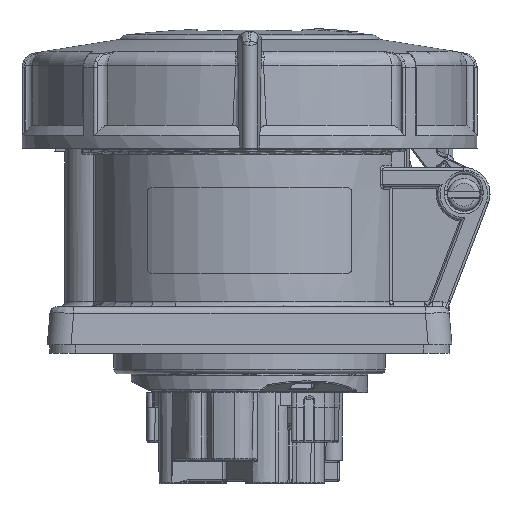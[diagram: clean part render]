
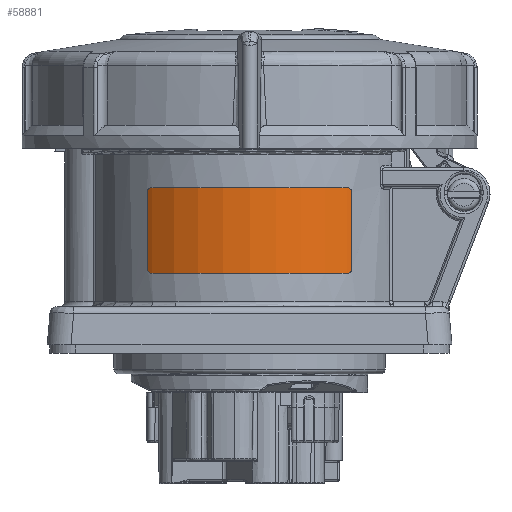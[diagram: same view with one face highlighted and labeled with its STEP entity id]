
A CAD part, left-side view. The second image highlights one B-rep face of the part: STEP entity #58881.
In plain terms, the highlighted cylindrical face has radius 32.65 mm (diameter 65.3 mm), a partial arc.
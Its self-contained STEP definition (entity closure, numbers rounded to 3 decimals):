
#12145=CARTESIAN_POINT('',(0.,0.,33.));
#12146=DIRECTION('',(0.,0.,1.));
#12147=DIRECTION('',(-0.778,0.628,0.));
#12148=AXIS2_PLACEMENT_3D('',#12145,#12146,#12147);
#12154=CARTESIAN_POINT('',(-25.412,20.5,33.));
#12155=CARTESIAN_POINT('',(-25.383,20.536,33.));
#12156=CARTESIAN_POINT('',(-25.325,20.607,
32.996));
#12157=CARTESIAN_POINT('',(-25.238,20.714,
32.979));
#12158=CARTESIAN_POINT('',(-25.154,20.816,
32.951));
#12159=CARTESIAN_POINT('',(-25.073,20.914,
32.912));
#12160=CARTESIAN_POINT('',(-24.996,21.006,
32.865));
#12161=CARTESIAN_POINT('',(-24.925,21.09,
32.81));
#12162=CARTESIAN_POINT('',(-24.86,21.166,
32.748));
#12163=CARTESIAN_POINT('',(-24.802,21.234,32.682));
#12164=CARTESIAN_POINT('',(-24.751,21.293,
32.611));
#12165=CARTESIAN_POINT('',(-24.707,21.344,
32.538));
#12166=CARTESIAN_POINT('',(-24.67,21.387,
32.463));
#12167=CARTESIAN_POINT('',(-24.639,21.423,
32.387));
#12168=CARTESIAN_POINT('',(-24.614,21.452,
32.31));
#12169=CARTESIAN_POINT('',(-24.595,21.474,
32.233));
#12170=CARTESIAN_POINT('',(-24.582,21.489,
32.155));
#12171=CARTESIAN_POINT('',(-24.574,21.498,
32.078));
#12172=CARTESIAN_POINT('',(-24.572,21.5,32.026));
#12173=CARTESIAN_POINT('',(-24.572,21.5,32.));
#12200=DIRECTION('',(0.,0.,-1.));
#12201=VECTOR('',#12200,16.);
#12202=CARTESIAN_POINT('',(-24.572,-21.5,32.));
#12203=LINE('2282',#12202,#12201);
#12233=CARTESIAN_POINT('',(-24.572,21.5,16.));
#12234=CARTESIAN_POINT('',(-24.572,21.5,15.974));
#12235=CARTESIAN_POINT('',(-24.574,21.498,
15.922));
#12236=CARTESIAN_POINT('',(-24.582,21.489,
15.845));
#12237=CARTESIAN_POINT('',(-24.595,21.474,
15.767));
#12238=CARTESIAN_POINT('',(-24.614,21.452,
15.69));
#12239=CARTESIAN_POINT('',(-24.639,21.423,
15.613));
#12240=CARTESIAN_POINT('',(-24.67,21.387,
15.537));
#12241=CARTESIAN_POINT('',(-24.707,21.344,
15.462));
#12242=CARTESIAN_POINT('',(-24.751,21.293,
15.389));
#12243=CARTESIAN_POINT('',(-24.802,21.234,15.318));
#12244=CARTESIAN_POINT('',(-24.86,21.166,
15.252));
#12245=CARTESIAN_POINT('',(-24.925,21.09,
15.19));
#12246=CARTESIAN_POINT('',(-24.996,21.006,
15.135));
#12247=CARTESIAN_POINT('',(-25.073,20.914,
15.088));
#12248=CARTESIAN_POINT('',(-25.154,20.816,
15.049));
#12249=CARTESIAN_POINT('',(-25.238,20.714,
15.021));
#12250=CARTESIAN_POINT('',(-25.325,20.607,
15.004));
#12251=CARTESIAN_POINT('',(-25.383,20.536,15.));
#12252=CARTESIAN_POINT('',(-25.412,20.5,15.));
#12254=CARTESIAN_POINT('',(0.,0.,15.));
#12255=DIRECTION('',(0.,0.,1.));
#12256=DIRECTION('',(-0.778,0.628,0.));
#12257=AXIS2_PLACEMENT_3D('',#12254,#12255,#12256);
#12268=CARTESIAN_POINT('',(-25.412,-20.5,15.));
#12269=CARTESIAN_POINT('',(-25.383,-20.536,15.));
#12270=CARTESIAN_POINT('',(-25.325,-20.607,
15.004));
#12271=CARTESIAN_POINT('',(-25.238,-20.714,
15.021));
#12272=CARTESIAN_POINT('',(-25.154,-20.816,
15.049));
#12273=CARTESIAN_POINT('',(-25.073,-20.914,
15.088));
#12274=CARTESIAN_POINT('',(-24.996,-21.006,
15.135));
#12275=CARTESIAN_POINT('',(-24.925,-21.09,
15.19));
#12276=CARTESIAN_POINT('',(-24.86,-21.166,
15.252));
#12277=CARTESIAN_POINT('',(-24.802,-21.234,15.318));
#12278=CARTESIAN_POINT('',(-24.751,-21.293,
15.389));
#12279=CARTESIAN_POINT('',(-24.707,-21.344,
15.462));
#12280=CARTESIAN_POINT('',(-24.67,-21.387,
15.537));
#12281=CARTESIAN_POINT('',(-24.639,-21.423,
15.613));
#12282=CARTESIAN_POINT('',(-24.614,-21.452,
15.69));
#12283=CARTESIAN_POINT('',(-24.595,-21.474,
15.767));
#12284=CARTESIAN_POINT('',(-24.582,-21.489,
15.845));
#12285=CARTESIAN_POINT('',(-24.574,-21.498,
15.922));
#12286=CARTESIAN_POINT('',(-24.572,-21.5,15.974));
#12287=CARTESIAN_POINT('',(-24.572,-21.5,16.));
#12347=CARTESIAN_POINT('',(-24.572,-21.5,32.));
#12348=CARTESIAN_POINT('',(-24.572,-21.5,32.026));
#12349=CARTESIAN_POINT('',(-24.574,-21.498,
32.078));
#12350=CARTESIAN_POINT('',(-24.582,-21.489,
32.155));
#12351=CARTESIAN_POINT('',(-24.595,-21.474,
32.233));
#12352=CARTESIAN_POINT('',(-24.614,-21.452,
32.31));
#12353=CARTESIAN_POINT('',(-24.639,-21.423,
32.387));
#12354=CARTESIAN_POINT('',(-24.67,-21.387,
32.463));
#12355=CARTESIAN_POINT('',(-24.707,-21.344,
32.538));
#12356=CARTESIAN_POINT('',(-24.751,-21.293,
32.611));
#12357=CARTESIAN_POINT('',(-24.802,-21.234,32.682));
#12358=CARTESIAN_POINT('',(-24.86,-21.166,
32.748));
#12359=CARTESIAN_POINT('',(-24.925,-21.09,
32.81));
#12360=CARTESIAN_POINT('',(-24.996,-21.006,
32.865));
#12361=CARTESIAN_POINT('',(-25.073,-20.914,
32.912));
#12362=CARTESIAN_POINT('',(-25.154,-20.816,
32.951));
#12363=CARTESIAN_POINT('',(-25.238,-20.714,
32.979));
#12364=CARTESIAN_POINT('',(-25.325,-20.607,
32.996));
#12365=CARTESIAN_POINT('',(-25.383,-20.536,33.));
#12366=CARTESIAN_POINT('',(-25.412,-20.5,33.));
#12372=DIRECTION('',(0.,0.,-1.));
#12373=VECTOR('',#12372,16.);
#12374=CARTESIAN_POINT('',(-24.572,21.5,32.));
#12375=LINE('2283',#12374,#12373);
#35159=CARTESIAN_POINT('',(-25.412,20.5,15.));
#35161=VERTEX_POINT('',#35159);
#35163=CARTESIAN_POINT('',(-24.572,21.5,16.));
#35165=VERTEX_POINT('',#35163);
#35166=CARTESIAN_POINT('',(-25.412,20.5,33.));
#35168=VERTEX_POINT('',#35166);
#35170=VERTEX_POINT('',#12173);
#35174=CARTESIAN_POINT('',(-25.412,-20.5,33.));
#35176=VERTEX_POINT('',#35174);
#35178=CARTESIAN_POINT('',(-24.572,-21.5,32.));
#35180=VERTEX_POINT('',#35178);
#35181=CARTESIAN_POINT('',(-25.412,-20.5,15.));
#35183=VERTEX_POINT('',#35181);
#35185=VERTEX_POINT('',#12287);
#58860=CARTESIAN_POINT('',(0.,0.,15.));
#58861=DIRECTION('',(0.,0.,1.));
#58862=DIRECTION('',(1.,0.,0.));
#58863=AXIS2_PLACEMENT_3D('',#58860,#58861,#58862);
#58864=CYLINDRICAL_SURFACE('106',#58863,32.65);
#58866=ORIENTED_EDGE('2270',*,*,#58865,.F.);
#58868=ORIENTED_EDGE('2283',*,*,#58867,.F.);
#58869=ORIENTED_EDGE('2272',*,*,#58845,.F.);
#58870=ORIENTED_EDGE('2281',*,*,#58827,.T.);
#58872=ORIENTED_EDGE('2276',*,*,#58871,.F.);
#58874=ORIENTED_EDGE('2282',*,*,#58873,.T.);
#58876=ORIENTED_EDGE('2278',*,*,#58875,.F.);
#58878=ORIENTED_EDGE('2280',*,*,#58877,.F.);
#58879=EDGE_LOOP('106',(#58866,#58868,#58869,#58870,#58872,#58874,#58876,
#58878));
#58880=FACE_OUTER_BOUND('106',#58879,.F.);
#12149=CIRCLE('2281',#12148,32.65);
#12174=B_SPLINE_CURVE_WITH_KNOTS('2272',3,(#12154,#12155,#12156,#12157,#12158,
#12159,#12160,#12161,#12162,#12163,#12164,#12165,#12166,#12167,#12168,#12169,
#12170,#12171,#12172,#12173),.UNSPECIFIED.,.F.,.F.,(4,1,1,1,1,1,1,1,1,1,1,1,1,1,
1,1,1,4),(0.,0.059,0.118,0.176,
0.235,0.294,0.353,0.412,
0.471,0.529,0.588,0.647,
0.706,0.765,0.824,0.882,
0.941,1.),.UNSPECIFIED.);
#12253=B_SPLINE_CURVE_WITH_KNOTS('2270',3,(#12233,#12234,#12235,#12236,#12237,
#12238,#12239,#12240,#12241,#12242,#12243,#12244,#12245,#12246,#12247,#12248,
#12249,#12250,#12251,#12252),.UNSPECIFIED.,.F.,.F.,(4,1,1,1,1,1,1,1,1,1,1,1,1,1,
1,1,1,4),(0.,0.059,0.118,0.176,
0.235,0.294,0.353,0.412,
0.471,0.529,0.588,0.647,
0.706,0.765,0.824,0.882,
0.941,1.),.UNSPECIFIED.);
#12258=CIRCLE('2280',#12257,32.65);
#12288=B_SPLINE_CURVE_WITH_KNOTS('2278',3,(#12268,#12269,#12270,#12271,#12272,
#12273,#12274,#12275,#12276,#12277,#12278,#12279,#12280,#12281,#12282,#12283,
#12284,#12285,#12286,#12287),.UNSPECIFIED.,.F.,.F.,(4,1,1,1,1,1,1,1,1,1,1,1,1,1,
1,1,1,4),(0.,0.059,0.118,0.176,
0.235,0.294,0.353,0.412,
0.471,0.529,0.588,0.647,
0.706,0.765,0.824,0.882,
0.941,1.),.UNSPECIFIED.);
#12367=B_SPLINE_CURVE_WITH_KNOTS('2276',3,(#12347,#12348,#12349,#12350,#12351,
#12352,#12353,#12354,#12355,#12356,#12357,#12358,#12359,#12360,#12361,#12362,
#12363,#12364,#12365,#12366),.UNSPECIFIED.,.F.,.F.,(4,1,1,1,1,1,1,1,1,1,1,1,1,1,
1,1,1,4),(0.,0.059,0.118,0.176,
0.235,0.294,0.353,0.412,
0.471,0.529,0.588,0.647,
0.706,0.765,0.824,0.882,
0.941,1.),.UNSPECIFIED.);
#58827=EDGE_CURVE('2281',#35168,#35176,#12149,.T.);
#58845=EDGE_CURVE('2272',#35168,#35170,#12174,.T.);
#58865=EDGE_CURVE('2270',#35165,#35161,#12253,.T.);
#58867=EDGE_CURVE('2283',#35170,#35165,#12375,.T.);
#58871=EDGE_CURVE('2276',#35180,#35176,#12367,.T.);
#58873=EDGE_CURVE('2282',#35180,#35185,#12203,.T.);
#58875=EDGE_CURVE('2278',#35183,#35185,#12288,.T.);
#58877=EDGE_CURVE('2280',#35161,#35183,#12258,.T.);
#58881=ADVANCED_FACE('106',(#58880),#58864,.T.);
